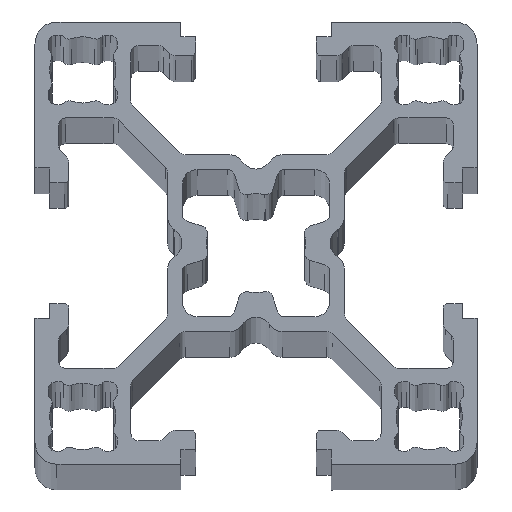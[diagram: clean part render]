
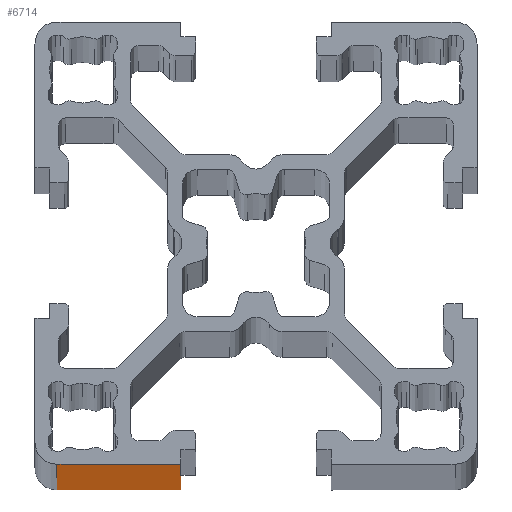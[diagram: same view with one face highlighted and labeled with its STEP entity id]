
A CAD part, top view. The second image highlights one B-rep face of the part: STEP entity #6714.
In plain terms, the highlighted planar face has unit normal (0, -1, 0).
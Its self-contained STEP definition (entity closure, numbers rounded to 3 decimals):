
#196 = DIRECTION ( 'NONE',  ( 0., 0., 1. ) ) ;
#389 = VERTEX_POINT ( 'NONE', #740 ) ;
#740 = CARTESIAN_POINT ( 'NONE',  ( -5.1, -15., -1000. ) ) ;
#1003 = DIRECTION ( 'NONE',  ( 1., 0., 0. ) ) ;
#1283 = CARTESIAN_POINT ( 'NONE',  ( -5.1, -15., 0. ) ) ;
#2550 = ORIENTED_EDGE ( 'NONE', *, *, #7655, .T. ) ;
#2822 = VERTEX_POINT ( 'NONE', #11149 ) ;
#3495 = DIRECTION ( 'NONE',  ( 0., -1., 0. ) ) ;
#3563 = CARTESIAN_POINT ( 'NONE',  ( 0., -15., 0. ) ) ;
#3707 = VERTEX_POINT ( 'NONE', #1283 ) ;
#3929 = ORIENTED_EDGE ( 'NONE', *, *, #6348, .F. ) ;
#4030 = LINE ( 'NONE', #7622, #7644 ) ;
#4368 = FACE_OUTER_BOUND ( 'NONE', #4436, .T. ) ;
#4436 = EDGE_LOOP ( 'NONE', ( #3929, #10301, #2550, #8303 ) ) ;
#4650 = LINE ( 'NONE', #8236, #5392 ) ;
#5392 = VECTOR ( 'NONE', #196, 1000. ) ;
#5458 = LINE ( 'NONE', #9046, #9414 ) ;
#5891 = VECTOR ( 'NONE', #7141, 1000. ) ;
#6061 = AXIS2_PLACEMENT_3D ( 'NONE', #11541, #3495, #7075 ) ;
#6348 = EDGE_CURVE ( 'NONE', #7827, #3707, #11613, .T. ) ;
#6714 = ADVANCED_FACE ( 'NONE', ( #4368 ), #7962, .T. ) ;
#6740 = CARTESIAN_POINT ( 'NONE',  ( -13.5, -15., 0. ) ) ;
#7075 = DIRECTION ( 'NONE',  ( 1., 0., 0. ) ) ;
#7141 = DIRECTION ( 'NONE',  ( 1., 0., 0. ) ) ;
#7622 = CARTESIAN_POINT ( 'NONE',  ( -13.5, -15., -1000. ) ) ;
#7644 = VECTOR ( 'NONE', #11198, 1000. ) ;
#7655 = EDGE_CURVE ( 'NONE', #2822, #389, #5458, .T. ) ;
#7827 = VERTEX_POINT ( 'NONE', #6740 ) ;
#7962 = PLANE ( 'NONE',  #6061 ) ;
#8236 = CARTESIAN_POINT ( 'NONE',  ( -5.1, -15., -1000. ) ) ;
#8303 = ORIENTED_EDGE ( 'NONE', *, *, #8459, .T. ) ;
#8459 = EDGE_CURVE ( 'NONE', #389, #3707, #4650, .T. ) ;
#9029 = EDGE_CURVE ( 'NONE', #2822, #7827, #4030, .T. ) ;
#9046 = CARTESIAN_POINT ( 'NONE',  ( 0., -15., -1000. ) ) ;
#9414 = VECTOR ( 'NONE', #1003, 1000. ) ;
#10301 = ORIENTED_EDGE ( 'NONE', *, *, #9029, .F. ) ;
#11149 = CARTESIAN_POINT ( 'NONE',  ( -13.5, -15., -1000. ) ) ;
#11198 = DIRECTION ( 'NONE',  ( 0., 0., 1. ) ) ;
#11541 = CARTESIAN_POINT ( 'NONE',  ( 0., -15., -1000. ) ) ;
#11613 = LINE ( 'NONE', #3563, #5891 ) ;
